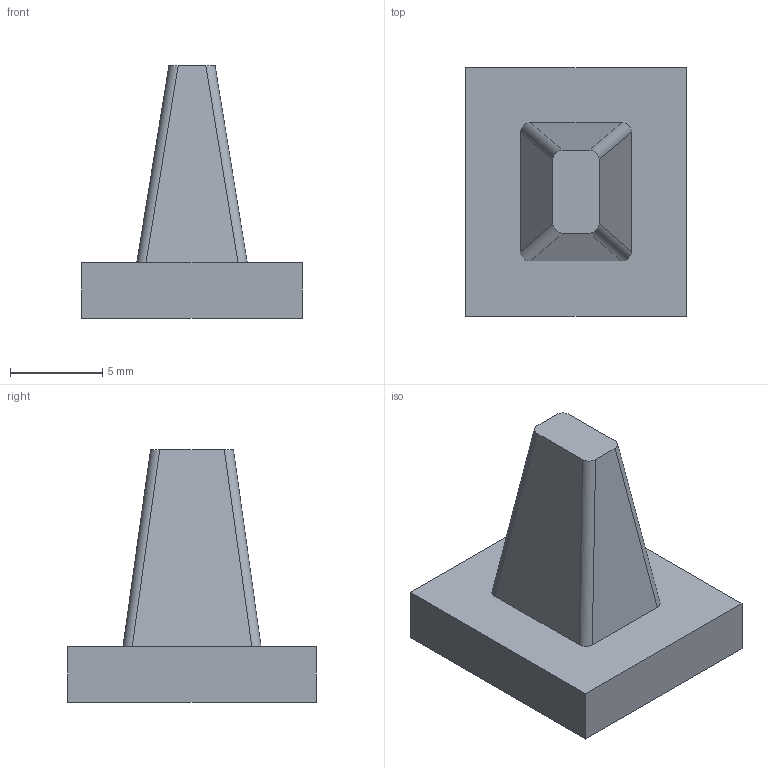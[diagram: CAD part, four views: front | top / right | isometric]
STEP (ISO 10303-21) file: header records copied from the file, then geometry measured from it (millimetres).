
FILE_DESCRIPTION(('Open CASCADE Model'),'2;1');
FILE_NAME('Open CASCADE Shape Model','2026-09-15T13:43:01',('Author'),( 'Open CASCADE'),'Open CASCADE STEP processor 7.7','Open CASCADE 7.7' ,'Unknown');
FILE_SCHEMA(('AUTOMOTIVE_DESIGN { 1 0 10303 214 1 1 1 1 }'));
Length unit declared in the file: millimetre
Products named in the file (1): COMPOUND
Bounding box: 12 x 13.5 x 13.71 mm (x, y, z)
Volume: 767.4 mm3; surface area: 656.6 mm2
Topology: 1 solids, 1 shells, 15 faces, 36 edges, 24 vertices
Faces by surface type: bspline 8, plane 7
Entity records: 1116 total; most frequent: CARTESIAN_POINT 448, DIRECTION 92, ORIENTED_EDGE 72, PCURVE 72, DEFINITIONAL_REPRESENTATION 72, LINE 64, VECTOR 64, EDGE_CURVE 36
